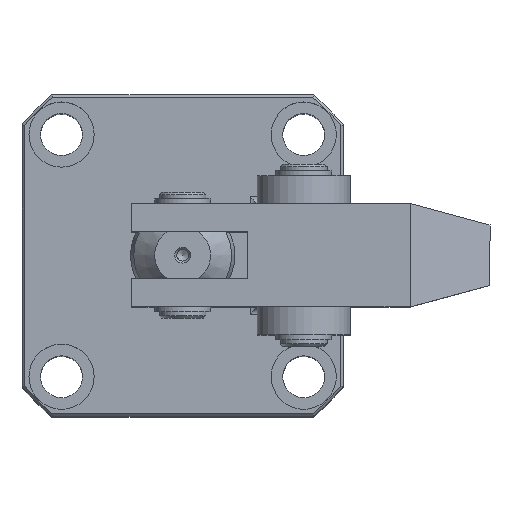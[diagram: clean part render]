
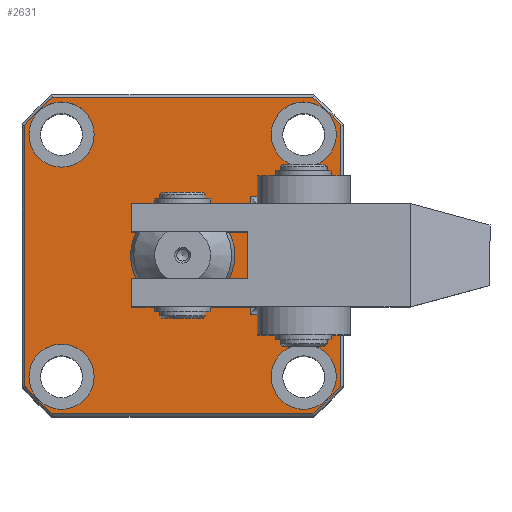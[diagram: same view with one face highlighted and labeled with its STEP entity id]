
A CAD part, top view. The second image highlights one B-rep face of the part: STEP entity #2631.
In plain terms, the highlighted planar face has unit normal (0, 0, 1).
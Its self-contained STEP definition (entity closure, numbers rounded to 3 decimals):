
#142=CIRCLE('',#2903,44.);
#143=CIRCLE('',#2904,44.);
#144=CIRCLE('',#2905,44.);
#145=CIRCLE('',#2906,44.);
#146=CIRCLE('',#2907,7.);
#147=CIRCLE('',#2908,7.);
#148=CIRCLE('',#2909,7.);
#149=CIRCLE('',#2910,7.);
#150=CIRCLE('',#2911,11.2);
#281=PLANE('',#2902);
#382=LINE('',#4142,#547);
#383=LINE('',#4145,#548);
#384=LINE('',#4147,#549);
#385=LINE('',#4151,#550);
#386=LINE('',#4155,#551);
#387=LINE('',#4159,#552);
#388=LINE('',#4163,#553);
#389=LINE('',#4165,#554);
#547=VECTOR('',#3272,1000.);
#548=VECTOR('',#3273,1000.);
#549=VECTOR('',#3274,1000.);
#550=VECTOR('',#3277,1000.);
#551=VECTOR('',#3280,1000.);
#552=VECTOR('',#3283,1000.);
#553=VECTOR('',#3286,1000.);
#554=VECTOR('',#3287,1000.);
#717=ORIENTED_EDGE('',*,*,#1390,.T.);
#718=ORIENTED_EDGE('',*,*,#1391,.T.);
#719=ORIENTED_EDGE('',*,*,#1392,.T.);
#720=ORIENTED_EDGE('',*,*,#1393,.T.);
#721=ORIENTED_EDGE('',*,*,#1394,.T.);
#722=ORIENTED_EDGE('',*,*,#1395,.T.);
#723=ORIENTED_EDGE('',*,*,#1396,.T.);
#724=ORIENTED_EDGE('',*,*,#1397,.T.);
#725=ORIENTED_EDGE('',*,*,#1398,.T.);
#726=ORIENTED_EDGE('',*,*,#1399,.T.);
#727=ORIENTED_EDGE('',*,*,#1400,.T.);
#728=ORIENTED_EDGE('',*,*,#1401,.T.);
#729=ORIENTED_EDGE('',*,*,#1402,.F.);
#730=ORIENTED_EDGE('',*,*,#1403,.F.);
#731=ORIENTED_EDGE('',*,*,#1404,.F.);
#732=ORIENTED_EDGE('',*,*,#1405,.F.);
#733=ORIENTED_EDGE('',*,*,#1406,.T.);
#1390=EDGE_CURVE('',#1726,#1727,#382,.F.);
#1391=EDGE_CURVE('',#1727,#1728,#383,.F.);
#1392=EDGE_CURVE('',#1728,#1729,#384,.T.);
#1393=EDGE_CURVE('',#1729,#1730,#142,.T.);
#1394=EDGE_CURVE('',#1730,#1731,#385,.T.);
#1395=EDGE_CURVE('',#1731,#1732,#143,.T.);
#1396=EDGE_CURVE('',#1732,#1733,#386,.T.);
#1397=EDGE_CURVE('',#1733,#1734,#144,.T.);
#1398=EDGE_CURVE('',#1734,#1735,#387,.T.);
#1399=EDGE_CURVE('',#1735,#1736,#145,.T.);
#1400=EDGE_CURVE('',#1736,#1737,#388,.T.);
#1401=EDGE_CURVE('',#1737,#1726,#389,.F.);
#1402=EDGE_CURVE('',#1738,#1738,#146,.T.);
#1403=EDGE_CURVE('',#1739,#1739,#147,.T.);
#1404=EDGE_CURVE('',#1740,#1740,#148,.T.);
#1405=EDGE_CURVE('',#1741,#1741,#149,.T.);
#1406=EDGE_CURVE('',#1742,#1742,#150,.T.);
#1726=VERTEX_POINT('',#4143);
#1727=VERTEX_POINT('',#4144);
#1728=VERTEX_POINT('',#4146);
#1729=VERTEX_POINT('',#4148);
#1730=VERTEX_POINT('',#4150);
#1731=VERTEX_POINT('',#4152);
#1732=VERTEX_POINT('',#4154);
#1733=VERTEX_POINT('',#4156);
#1734=VERTEX_POINT('',#4158);
#1735=VERTEX_POINT('',#4160);
#1736=VERTEX_POINT('',#4162);
#1737=VERTEX_POINT('',#4164);
#1738=VERTEX_POINT('',#4167);
#1739=VERTEX_POINT('',#4169);
#1740=VERTEX_POINT('',#4171);
#1741=VERTEX_POINT('',#4173);
#1742=VERTEX_POINT('',#4175);
#1978=EDGE_LOOP('',(#717,#718,#719,#720,#721,#722,#723,#724,#725,#726,#727,
#728));
#1979=EDGE_LOOP('',(#729));
#1980=EDGE_LOOP('',(#730));
#1981=EDGE_LOOP('',(#731));
#1982=EDGE_LOOP('',(#732));
#1983=EDGE_LOOP('',(#733));
#2271=FACE_BOUND('',#1978,.T.);
#2272=FACE_BOUND('',#1979,.T.);
#2273=FACE_BOUND('',#1980,.T.);
#2274=FACE_BOUND('',#1981,.T.);
#2275=FACE_BOUND('',#1982,.T.);
#2276=FACE_BOUND('',#1983,.T.);
#2631=ADVANCED_FACE('',(#2271,#2272,#2273,#2274,#2275,#2276),#281,.T.);
#2902=AXIS2_PLACEMENT_3D('',#4141,#3270,#3271);
#2903=AXIS2_PLACEMENT_3D('',#4149,#3275,#3276);
#2904=AXIS2_PLACEMENT_3D('',#4153,#3278,#3279);
#2905=AXIS2_PLACEMENT_3D('',#4157,#3281,#3282);
#2906=AXIS2_PLACEMENT_3D('',#4161,#3284,#3285);
#2907=AXIS2_PLACEMENT_3D('',#4166,#3288,#3289);
#2908=AXIS2_PLACEMENT_3D('',#4168,#3290,#3291);
#2909=AXIS2_PLACEMENT_3D('',#4170,#3292,#3293);
#2910=AXIS2_PLACEMENT_3D('',#4172,#3294,#3295);
#2911=AXIS2_PLACEMENT_3D('',#4174,#3296,#3297);
#3270=DIRECTION('',(0.,0.,1.));
#3271=DIRECTION('',(0.,-1.,0.));
#3272=DIRECTION('',(0.,-1.,0.));
#3273=DIRECTION('',(-1.,0.,0.));
#3274=DIRECTION('',(0.,1.,0.));
#3275=DIRECTION('',(0.,0.,1.));
#3276=DIRECTION('',(0.,-1.,0.));
#3277=DIRECTION('',(-1.,0.,0.));
#3278=DIRECTION('',(0.,0.,1.));
#3279=DIRECTION('',(0.,-1.,0.));
#3280=DIRECTION('',(0.,-1.,0.));
#3281=DIRECTION('',(0.,0.,1.));
#3282=DIRECTION('',(0.,-1.,0.));
#3283=DIRECTION('',(1.,0.,0.));
#3284=DIRECTION('',(0.,0.,1.));
#3285=DIRECTION('',(0.,-1.,0.));
#3286=DIRECTION('',(0.,1.,0.));
#3287=DIRECTION('',(1.,0.,0.));
#3288=DIRECTION('',(0.,0.,1.));
#3289=DIRECTION('',(1.,0.,0.));
#3290=DIRECTION('',(0.,0.,1.));
#3291=DIRECTION('',(1.,0.,0.));
#3292=DIRECTION('',(0.,0.,1.));
#3293=DIRECTION('',(1.,0.,0.));
#3294=DIRECTION('',(0.,0.,1.));
#3295=DIRECTION('',(1.,0.,0.));
#3296=DIRECTION('',(0.,0.,-1.));
#3297=DIRECTION('',(0.,-1.,0.));
#4141=CARTESIAN_POINT('',(0.,0.,90.));
#4142=CARTESIAN_POINT('',(14.5,0.,90.));
#4143=CARTESIAN_POINT('',(14.5,-12.6,90.));
#4144=CARTESIAN_POINT('',(14.5,12.6,90.));
#4145=CARTESIAN_POINT('',(0.,12.6,90.));
#4146=CARTESIAN_POINT('',(34.,12.6,90.));
#4147=CARTESIAN_POINT('',(34.,0.,90.));
#4148=CARTESIAN_POINT('',(34.,27.928,90.));
#4149=CARTESIAN_POINT('',(0.,0.,90.));
#4150=CARTESIAN_POINT('',(27.928,34.,90.));
#4151=CARTESIAN_POINT('',(0.,34.,90.));
#4152=CARTESIAN_POINT('',(-27.928,34.,90.));
#4153=CARTESIAN_POINT('',(0.,0.,90.));
#4154=CARTESIAN_POINT('',(-34.,27.928,90.));
#4155=CARTESIAN_POINT('',(-34.,0.,90.));
#4156=CARTESIAN_POINT('',(-34.,-27.928,90.));
#4157=CARTESIAN_POINT('',(0.,0.,90.));
#4158=CARTESIAN_POINT('',(-27.928,-34.,90.));
#4159=CARTESIAN_POINT('',(0.,-34.,90.));
#4160=CARTESIAN_POINT('',(27.928,-34.,90.));
#4161=CARTESIAN_POINT('',(0.,0.,90.));
#4162=CARTESIAN_POINT('',(34.,-27.928,90.));
#4163=CARTESIAN_POINT('',(34.,0.,90.));
#4164=CARTESIAN_POINT('',(34.,-12.6,90.));
#4165=CARTESIAN_POINT('',(16.,-12.6,90.));
#4166=CARTESIAN_POINT('',(-26.,26.,90.));
#4167=CARTESIAN_POINT('',(-19.,26.,90.));
#4168=CARTESIAN_POINT('',(-26.,-26.,90.));
#4169=CARTESIAN_POINT('',(-19.,-26.,90.));
#4170=CARTESIAN_POINT('',(26.,-26.,90.));
#4171=CARTESIAN_POINT('',(33.,-26.,90.));
#4172=CARTESIAN_POINT('',(26.,26.,90.));
#4173=CARTESIAN_POINT('',(33.,26.,90.));
#4174=CARTESIAN_POINT('',(0.,0.,90.));
#4175=CARTESIAN_POINT('',(0.,-11.2,90.));
